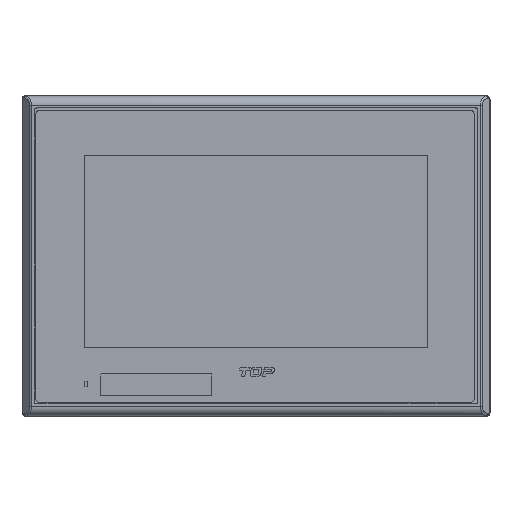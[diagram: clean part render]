
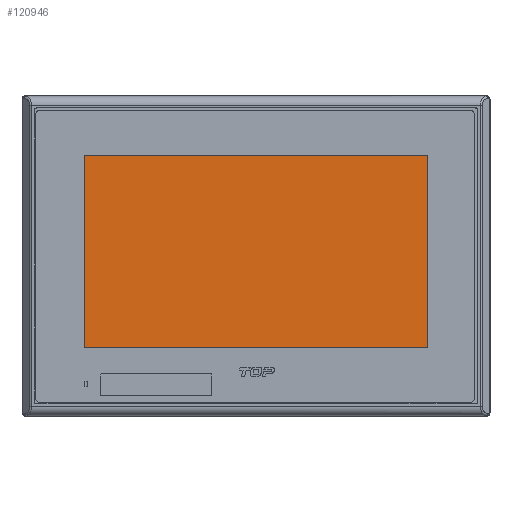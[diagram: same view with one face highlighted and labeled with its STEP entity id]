
A CAD part, top view. The second image highlights one B-rep face of the part: STEP entity #120946.
In plain terms, the highlighted planar face has unit normal (0, 0, 1).
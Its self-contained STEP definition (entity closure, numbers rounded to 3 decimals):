
#34170=DIRECTION('',(0.,-1.,0.));
#34171=VECTOR('',#34170,87.);
#34172=CARTESIAN_POINT('',(-77.75,47.,-0.2));
#34173=LINE('',#34172,#34171);
#34178=DIRECTION('',(1.,0.,0.));
#34179=VECTOR('',#34178,155.5);
#34180=CARTESIAN_POINT('',(-77.75,-40.,-0.2));
#34181=LINE('',#34180,#34179);
#34186=DIRECTION('',(0.,1.,0.));
#34187=VECTOR('',#34186,87.);
#34188=CARTESIAN_POINT('',(77.75,-40.,-0.2));
#34189=LINE('',#34188,#34187);
#34194=DIRECTION('',(-1.,0.,0.));
#34195=VECTOR('',#34194,155.5);
#34196=CARTESIAN_POINT('',(77.75,47.,-0.2));
#34197=LINE('',#34196,#34195);
#70452=CARTESIAN_POINT('',(-77.75,47.,-0.2));
#70453=CARTESIAN_POINT('',(-77.75,-40.,-0.2));
#70454=VERTEX_POINT('',#70452);
#70455=VERTEX_POINT('',#70453);
#70456=CARTESIAN_POINT('',(77.75,-40.,-0.2));
#70457=VERTEX_POINT('',#70456);
#70458=CARTESIAN_POINT('',(77.75,47.,-0.2));
#70459=VERTEX_POINT('',#70458);
#120931=CARTESIAN_POINT('',(0.,0.,-0.2));
#120932=DIRECTION('',(0.,0.,-1.));
#120933=DIRECTION('',(-1.,0.,0.));
#120934=AXIS2_PLACEMENT_3D('',#120931,#120932,#120933);
#120935=PLANE('',#120934);
#120937=ORIENTED_EDGE('',*,*,#120936,.F.);
#120939=ORIENTED_EDGE('',*,*,#120938,.F.);
#120941=ORIENTED_EDGE('',*,*,#120940,.F.);
#120943=ORIENTED_EDGE('',*,*,#120942,.F.);
#120944=EDGE_LOOP('',(#120937,#120939,#120941,#120943));
#120945=FACE_OUTER_BOUND('',#120944,.F.);
#120946=ADVANCED_FACE('',(#120945),#120935,.F.);
#120936=EDGE_CURVE('',#70454,#70455,#34173,.T.);
#120938=EDGE_CURVE('',#70459,#70454,#34197,.T.);
#120940=EDGE_CURVE('',#70457,#70459,#34189,.T.);
#120942=EDGE_CURVE('',#70455,#70457,#34181,.T.);
